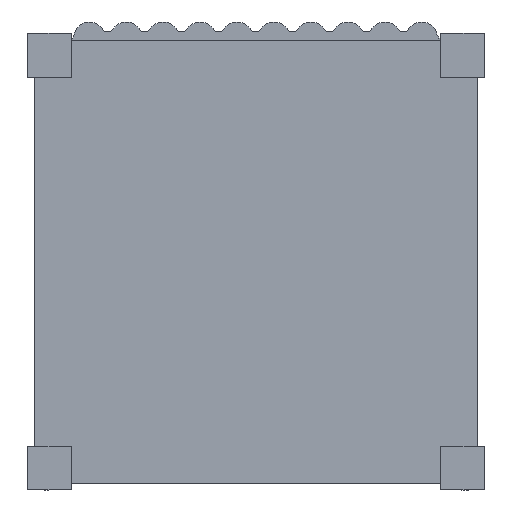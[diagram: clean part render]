
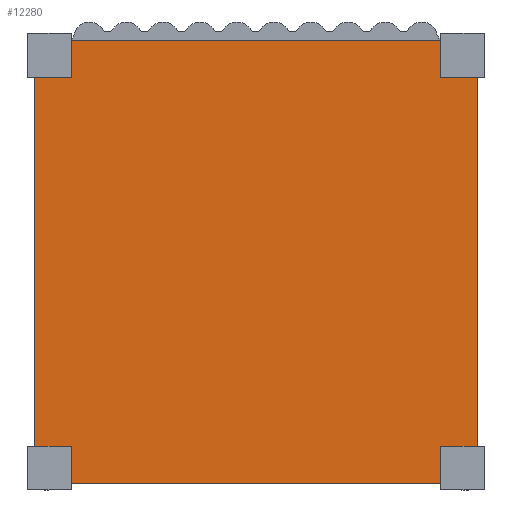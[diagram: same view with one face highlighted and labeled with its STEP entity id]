
A CAD part, front view. The second image highlights one B-rep face of the part: STEP entity #12280.
In plain terms, the highlighted planar face has unit normal (0, -1, 0).
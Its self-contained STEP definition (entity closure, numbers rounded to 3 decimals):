
#247=PLANE('',#13100);
#863=FACE_OUTER_BOUND('',#1556,.T.);
#1556=EDGE_LOOP('',(#8703,#8704,#8705,#8706));
#2260=LINE('',#17281,#3829);
#2264=LINE('',#17289,#3833);
#2267=LINE('',#17295,#3836);
#2270=LINE('',#17300,#3839);
#3829=VECTOR('',#14048,10.);
#3833=VECTOR('',#14054,10.);
#3836=VECTOR('',#14059,10.);
#3839=VECTOR('',#14064,10.);
#5570=VERTEX_POINT('',#17279);
#5571=VERTEX_POINT('',#17280);
#5574=VERTEX_POINT('',#17288);
#5576=VERTEX_POINT('',#17294);
#6780=EDGE_CURVE('',#5570,#5571,#2260,.T.);
#6784=EDGE_CURVE('',#5574,#5570,#2264,.T.);
#6787=EDGE_CURVE('',#5576,#5574,#2267,.T.);
#6790=EDGE_CURVE('',#5571,#5576,#2270,.T.);
#8703=ORIENTED_EDGE('',*,*,#6790,.F.);
#8704=ORIENTED_EDGE('',*,*,#6780,.F.);
#8705=ORIENTED_EDGE('',*,*,#6784,.F.);
#8706=ORIENTED_EDGE('',*,*,#6787,.F.);
#12280=ADVANCED_FACE('',(#863),#247,.F.);
#13100=AXIS2_PLACEMENT_3D('',#17303,#14068,#14069);
#14048=DIRECTION('',(1.,0.,0.));
#14054=DIRECTION('',(0.,0.,1.));
#14059=DIRECTION('',(-1.,0.,0.));
#14064=DIRECTION('',(0.,0.,-1.));
#14068=DIRECTION('center_axis',(0.,1.,0.));
#14069=DIRECTION('ref_axis',(1.,0.,0.));
#17279=CARTESIAN_POINT('',(-50.,0.,50.));
#17280=CARTESIAN_POINT('',(50.,0.,50.));
#17281=CARTESIAN_POINT('',(-50.,0.,50.));
#17288=CARTESIAN_POINT('',(-50.,0.,-50.));
#17289=CARTESIAN_POINT('',(-50.,0.,-50.));
#17294=CARTESIAN_POINT('',(50.,0.,-50.));
#17295=CARTESIAN_POINT('',(50.,0.,-50.));
#17300=CARTESIAN_POINT('',(50.,0.,50.));
#17303=CARTESIAN_POINT('Origin',(0.,0.,0.));
